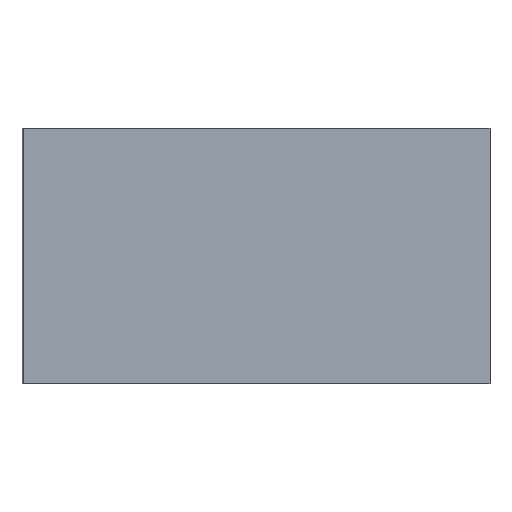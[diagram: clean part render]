
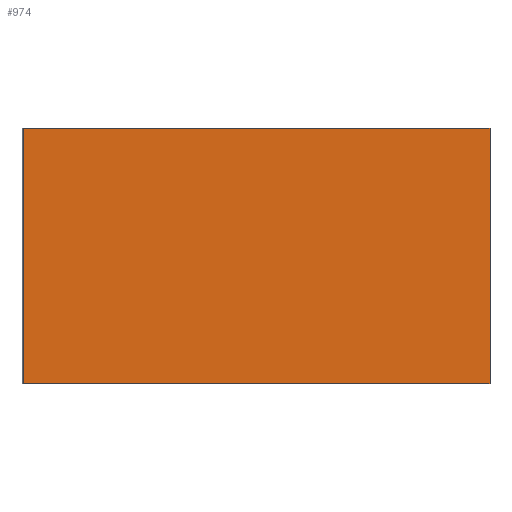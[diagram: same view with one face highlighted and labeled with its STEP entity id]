
A CAD part, front view. The second image highlights one B-rep face of the part: STEP entity #974.
In plain terms, the highlighted planar face has unit normal (0, -1, 0).
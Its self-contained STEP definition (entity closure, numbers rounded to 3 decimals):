
#76 = FACE_OUTER_BOUND ( 'NONE', #844, .T. ) ;
#109 = LINE ( 'NONE', #785, #446 ) ;
#145 = ORIENTED_EDGE ( 'NONE', *, *, #1232, .T. ) ;
#147 = CARTESIAN_POINT ( 'NONE',  ( 0.063, -37.845, 10. ) ) ;
#190 = EDGE_CURVE ( 'NONE', #195, #1044, #109, .T. ) ;
#195 = VERTEX_POINT ( 'NONE', #249 ) ;
#213 = VERTEX_POINT ( 'NONE', #1470 ) ;
#249 = CARTESIAN_POINT ( 'NONE',  ( 18.323, -37.845, 10. ) ) ;
#292 = CARTESIAN_POINT ( 'NONE',  ( 0.063, -37.845, 0. ) ) ;
#309 = DIRECTION ( 'NONE',  ( 1., 0., 0. ) ) ;
#317 = VECTOR ( 'NONE', #309, 1000. ) ;
#318 = EDGE_CURVE ( 'NONE', #1355, #1044, #1402, .T. ) ;
#370 = CARTESIAN_POINT ( 'NONE',  ( 0.063, -37.845, 0. ) ) ;
#376 = ORIENTED_EDGE ( 'NONE', *, *, #980, .F. ) ;
#377 = AXIS2_PLACEMENT_3D ( 'NONE', #1009, #1213, #1457 ) ;
#446 = VECTOR ( 'NONE', #793, 1000. ) ;
#473 = ORIENTED_EDGE ( 'NONE', *, *, #318, .T. ) ;
#683 = VECTOR ( 'NONE', #1191, 1000. ) ;
#772 = PLANE ( 'NONE',  #377 ) ;
#785 = CARTESIAN_POINT ( 'NONE',  ( 18.323, -37.845, 10. ) ) ;
#793 = DIRECTION ( 'NONE',  ( 0., 0., -1. ) ) ;
#809 = ORIENTED_EDGE ( 'NONE', *, *, #190, .F. ) ;
#839 = DIRECTION ( 'NONE',  ( 1., 0., 0. ) ) ;
#844 = EDGE_LOOP ( 'NONE', ( #473, #809, #376, #145 ) ) ;
#882 = LINE ( 'NONE', #1341, #317 ) ;
#974 = ADVANCED_FACE ( 'NONE', ( #76 ), #772, .F. ) ;
#980 = EDGE_CURVE ( 'NONE', #213, #195, #882, .T. ) ;
#1009 = CARTESIAN_POINT ( 'NONE',  ( 0.063, -37.845, 10. ) ) ;
#1044 = VERTEX_POINT ( 'NONE', #1206 ) ;
#1191 = DIRECTION ( 'NONE',  ( 0., 0., -1. ) ) ;
#1195 = LINE ( 'NONE', #147, #683 ) ;
#1206 = CARTESIAN_POINT ( 'NONE',  ( 18.323, -37.845, 0. ) ) ;
#1213 = DIRECTION ( 'NONE',  ( 0., 1., 0. ) ) ;
#1216 = VECTOR ( 'NONE', #839, 1000. ) ;
#1232 = EDGE_CURVE ( 'NONE', #213, #1355, #1195, .T. ) ;
#1341 = CARTESIAN_POINT ( 'NONE',  ( 0.063, -37.845, 10. ) ) ;
#1355 = VERTEX_POINT ( 'NONE', #292 ) ;
#1402 = LINE ( 'NONE', #370, #1216 ) ;
#1457 = DIRECTION ( 'NONE',  ( 0., 0., 1. ) ) ;
#1470 = CARTESIAN_POINT ( 'NONE',  ( 0.063, -37.845, 10. ) ) ;
